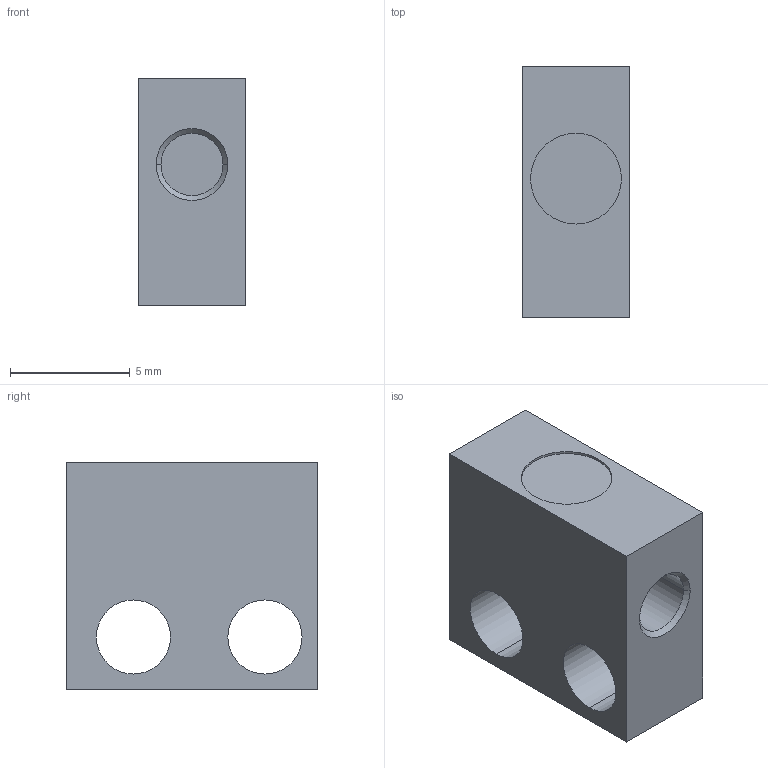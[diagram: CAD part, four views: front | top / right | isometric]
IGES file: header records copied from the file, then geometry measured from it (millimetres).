
Start section: SolidWorks IGES FILE using analytic representation for surfaces
Global section: file name: \\intra-srv04\開発データ\CAD_Data\CAD委員会\3D電子ｶﾀﾛｸﾞ\製品カタログ（新）\0_IGES\FV-SV2.IGS,41HSolidWorks 2004; native system: by SolidWorks Corporation; preprocessor: Version 5.3; author: mf1158; date: 050908.114137; units: millimetre
Bounding box: 4.5 x 10.5 x 9.5 mm (x, y, z)
Volume: 362.3 mm3; surface area: 465 mm2
Topology: 1 solids, 1 shells, 21 faces, 46 edges, 30 vertices
Faces by surface type: revolution 12, plane 9
